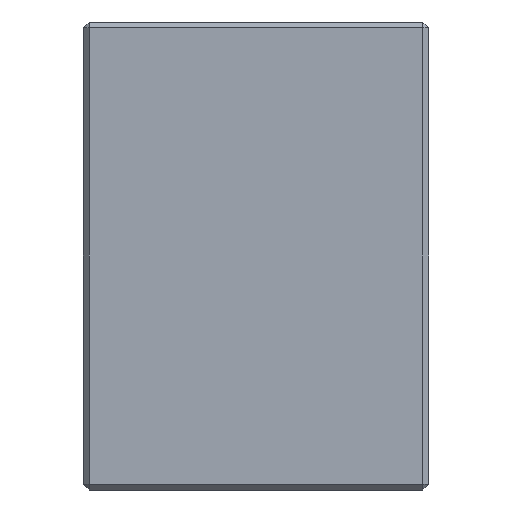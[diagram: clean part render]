
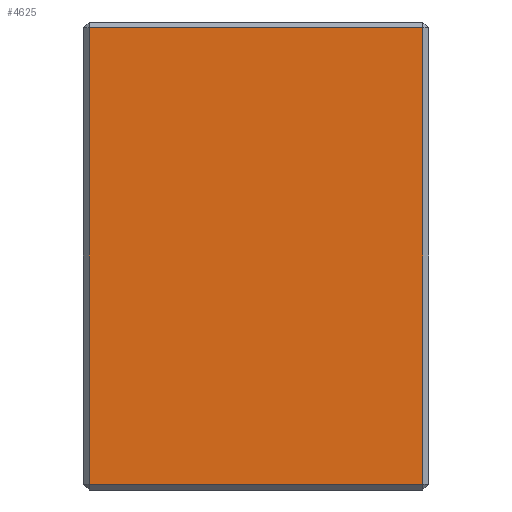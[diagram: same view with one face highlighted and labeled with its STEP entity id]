
A CAD part, left-side view. The second image highlights one B-rep face of the part: STEP entity #4625.
In plain terms, the highlighted planar face has unit normal (-1, 0, 0).
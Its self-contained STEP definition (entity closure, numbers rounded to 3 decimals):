
#105 = DIRECTION ( 'NONE',  ( -1., 0., 0. ) ) ;
#115 = EDGE_CURVE ( 'NONE', #2086, #4732, #1391, .T. ) ;
#430 = FACE_OUTER_BOUND ( 'NONE', #1403, .T. ) ;
#462 = ORIENTED_EDGE ( 'NONE', *, *, #5794, .T. ) ;
#479 = CARTESIAN_POINT ( 'NONE',  ( 0., 14.25, -19.5 ) ) ;
#631 = DIRECTION ( 'NONE',  ( 0., 0., 1. ) ) ;
#761 = ORIENTED_EDGE ( 'NONE', *, *, #115, .T. ) ;
#855 = ORIENTED_EDGE ( 'NONE', *, *, #1569, .T. ) ;
#1233 = ORIENTED_EDGE ( 'NONE', *, *, #2571, .T. ) ;
#1391 = LINE ( 'NONE', #4286, #4478 ) ;
#1403 = EDGE_LOOP ( 'NONE', ( #462, #761, #855, #1233 ) ) ;
#1569 = EDGE_CURVE ( 'NONE', #4732, #4403, #5815, .T. ) ;
#1813 = CARTESIAN_POINT ( 'NONE',  ( 0., 14.75, -20. ) ) ;
#2086 = VERTEX_POINT ( 'NONE', #479 ) ;
#2167 = LINE ( 'NONE', #4503, #6278 ) ;
#2571 = EDGE_CURVE ( 'NONE', #4403, #6082, #2167, .T. ) ;
#2829 = CARTESIAN_POINT ( 'NONE',  ( 0., 14.25, -20. ) ) ;
#3278 = LINE ( 'NONE', #2829, #6909 ) ;
#3399 = AXIS2_PLACEMENT_3D ( 'NONE', #1813, #105, #4231 ) ;
#3760 = CARTESIAN_POINT ( 'NONE',  ( 0., -14.25, 19.5 ) ) ;
#4231 = DIRECTION ( 'NONE',  ( 0., 0., 1. ) ) ;
#4286 = CARTESIAN_POINT ( 'NONE',  ( 0., -14.75, -19.5 ) ) ;
#4296 = DIRECTION ( 'NONE',  ( 0., -1., 0. ) ) ;
#4403 = VERTEX_POINT ( 'NONE', #3760 ) ;
#4478 = VECTOR ( 'NONE', #4296, 1000. ) ;
#4503 = CARTESIAN_POINT ( 'NONE',  ( 0., 14.75, 19.5 ) ) ;
#4625 = ADVANCED_FACE ( 'NONE', ( #430 ), #6840, .T. ) ;
#4732 = VERTEX_POINT ( 'NONE', #5459 ) ;
#5056 = DIRECTION ( 'NONE',  ( 0., 1., 0. ) ) ;
#5375 = CARTESIAN_POINT ( 'NONE',  ( 0., 14.25, 19.5 ) ) ;
#5459 = CARTESIAN_POINT ( 'NONE',  ( 0., -14.25, -19.5 ) ) ;
#5647 = CARTESIAN_POINT ( 'NONE',  ( 0., -14.25, 20. ) ) ;
#5794 = EDGE_CURVE ( 'NONE', #6082, #2086, #3278, .T. ) ;
#5815 = LINE ( 'NONE', #5647, #7000 ) ;
#6082 = VERTEX_POINT ( 'NONE', #5375 ) ;
#6278 = VECTOR ( 'NONE', #5056, 1000. ) ;
#6840 = PLANE ( 'NONE',  #3399 ) ;
#6909 = VECTOR ( 'NONE', #7210, 1000. ) ;
#7000 = VECTOR ( 'NONE', #631, 1000. ) ;
#7210 = DIRECTION ( 'NONE',  ( 0., 0., -1. ) ) ;
